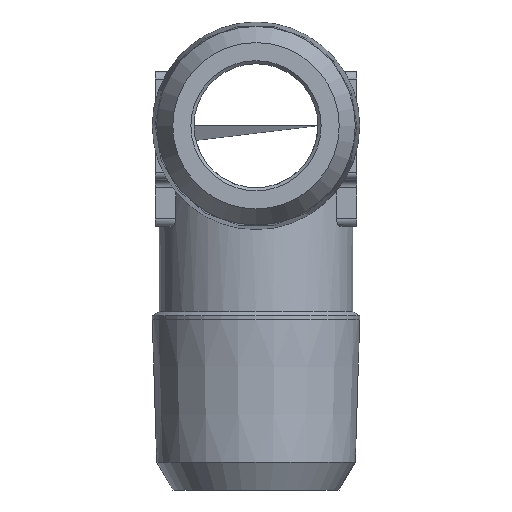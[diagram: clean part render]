
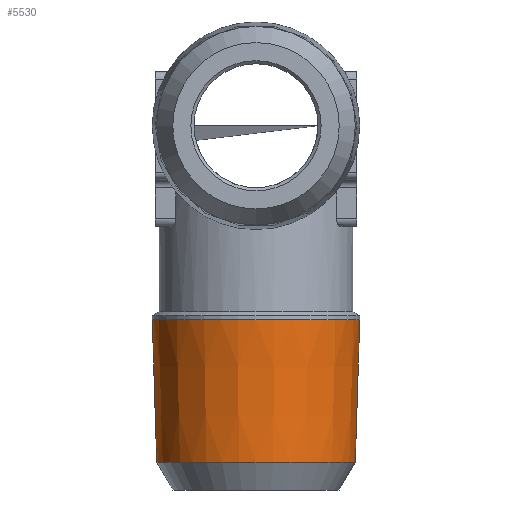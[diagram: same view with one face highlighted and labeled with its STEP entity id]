
A CAD part, left-side view. The second image highlights one B-rep face of the part: STEP entity #5530.
In plain terms, the highlighted conical face has half-angle 1.79 degrees and reference radius 6.694 mm.
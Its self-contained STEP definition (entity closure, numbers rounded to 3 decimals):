
#1442=CONICAL_SURFACE('',#5414,6.694,1.79);
#1468=ORIENTED_EDGE('',*,*,#1844,.F.);
#1469=ORIENTED_EDGE('',*,*,#1845,.T.);
#1708=CIRCLE('',#5413,6.407);
#1709=CIRCLE('',#5415,6.694);
#1753=VERTEX_POINT('',#2413);
#1754=VERTEX_POINT('',#2416);
#1844=EDGE_CURVE('',#1753,#1753,#1708,.T.);
#1845=EDGE_CURVE('',#1754,#1754,#1709,.T.);
#1975=EDGE_LOOP('',(#1468));
#1976=EDGE_LOOP('',(#1469));
#2055=FACE_BOUND('',#1975,.T.);
#2056=FACE_BOUND('',#1976,.T.);
#2152=DIRECTION('',(0.,-1.,0.));
#2153=DIRECTION('',(0.,0.,6.407));
#2154=DIRECTION('',(0.,1.,0.));
#2155=DIRECTION('',(0.,0.,1.));
#2156=DIRECTION('',(0.,-1.,0.));
#2157=DIRECTION('',(0.,0.,6.694));
#2413=CARTESIAN_POINT('',(40.103,5.801,6.407));
#2414=CARTESIAN_POINT('',(40.103,5.801,0.));
#2415=CARTESIAN_POINT('',(40.103,15.001,0.));
#2416=CARTESIAN_POINT('',(40.103,15.001,-6.694));
#2417=CARTESIAN_POINT('',(40.103,15.001,0.));
#5413=AXIS2_PLACEMENT_3D('',#2414,#2152,#2153);
#5414=AXIS2_PLACEMENT_3D('',#2415,#2154,#2155);
#5415=AXIS2_PLACEMENT_3D('',#2417,#2156,#2157);
#5530=ADVANCED_FACE('',(#2055,#2056),#1442,.T.);
